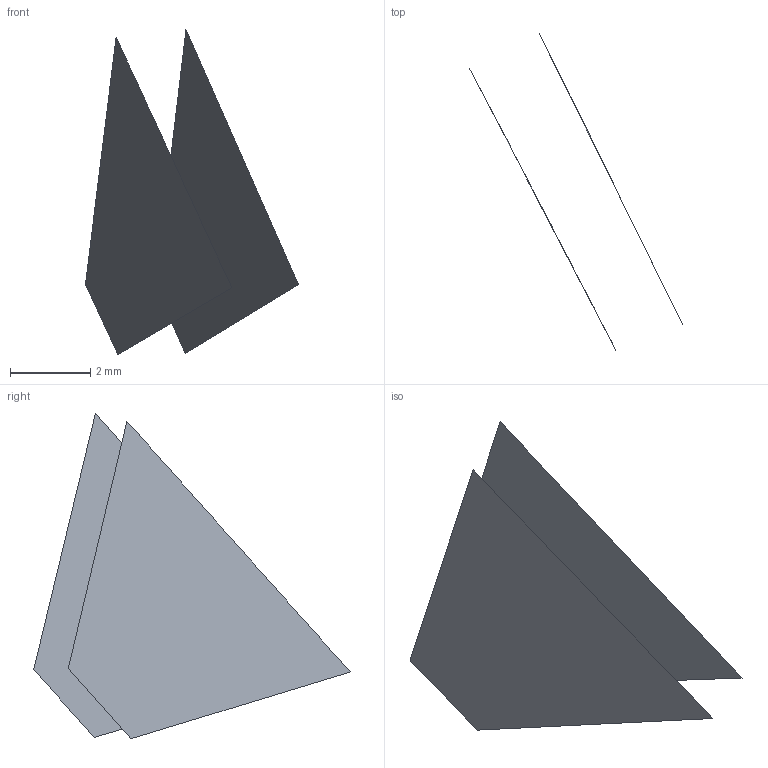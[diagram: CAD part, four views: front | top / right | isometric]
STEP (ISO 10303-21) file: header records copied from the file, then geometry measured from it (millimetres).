
FILE_DESCRIPTION(('FreeCAD Model'),'2;1');
FILE_NAME('Open CASCADE Shape Model','2022-05-21T09:28:01',('FreeCAD'),( 'FreeCAD'),'Open CASCADE STEP processor 7.5','FreeCAD','Unknown');
FILE_SCHEMA(('AUTOMOTIVE_DESIGN { 1 0 10303 214 1 1 1 1 }'));
Length unit declared in the file: millimetre
Products named in the file (3): Open CASCADE STEP translator 7.5 4; Open CASCADE STEP translator 7.5 4.1; Open CASCADE STEP translator 7.5 4.2
Assembly tree (2 placements, depth 2):
  Open CASCADE STEP translator 7.5 4
    Open CASCADE STEP translator 7.5 4.1
    Open CASCADE STEP translator 7.5 4.2
Bounding box: 5.33 x 7.91 x 8.14 mm (x, y, z)
Surface area: 64.3 mm2 (no closed solid volume)
Topology: 0 solids, 2 shells, 2 faces, 26 edges, 26 vertices
Faces by surface type: bspline 2
Entity records: 410 total; most frequent: CARTESIAN_POINT 141, B_SPLINE_CURVE_WITH_KNOTS 52, ORIENTED_EDGE 26, EDGE_CURVE 26, VERTEX_POINT 26, SURFACE_CURVE 26, PCURVE 26, DEFINITIONAL_REPRESENTATION 26
